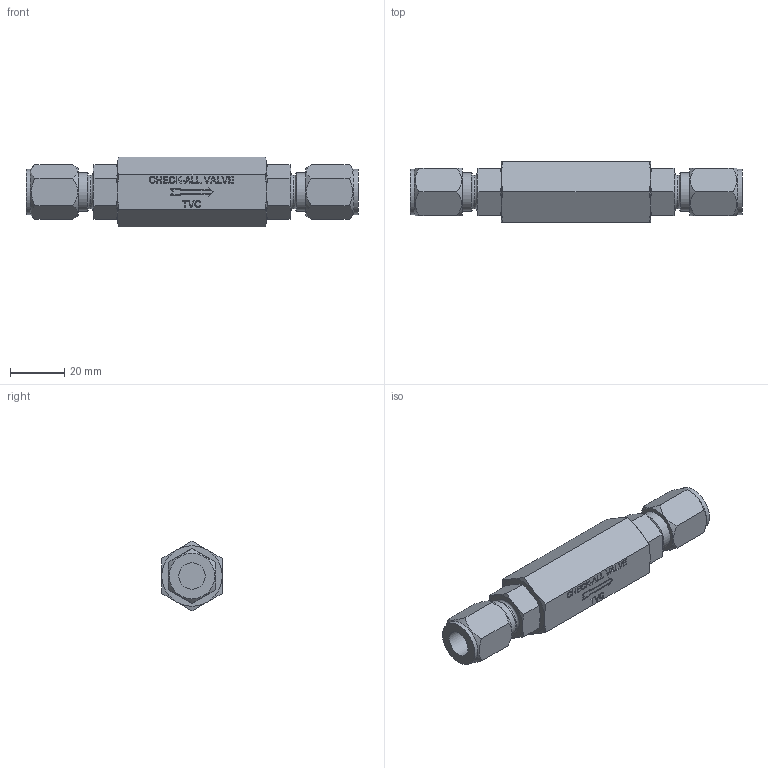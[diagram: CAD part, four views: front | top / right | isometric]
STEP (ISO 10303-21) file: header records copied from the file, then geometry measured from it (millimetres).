
FILE_DESCRIPTION( ( 'Unknown' ), '1' );
FILE_NAME( 'Y:/ENGR/3D Solid Edge Models/TV/stp/TVC.stp', 'Unknown', ( 'Unknown' ), ( 'Unknown' ), 'PSStep 16.0.42', 'Unknown', ' ' );
FILE_SCHEMA( ( 'AUTOMOTIVE_DESIGN { 1 0 10303 214 1 1 1 1 }' ) );
Length unit declared in the file: millimetre
Products named in the file (1): 1
Bounding box: 121.92 x 22.23 x 25.66 mm (x, y, z)
Volume: 36701.6 mm3; surface area: 10610.1 mm2
Topology: 1 solids, 1 shells, 270 faces, 677 edges, 438 vertices
Faces by surface type: plane 202, cone 42, extrusion 16, cylinder 8, torus 2
Full cylindrical faces by diameter (mm): 9.69 x2, 12.243 x2, 14.287 x2, 16.739 x2
Entity records: 11968 total; most frequent: CARTESIAN_POINT 2647, ORIENTED_EDGE 1306, DIRECTION 1080, EDGE_CURVE 653, PRESENTATION_STYLE_ASSIGNMENT 536, COLOUR_RGB 536, VECTOR 458, LINE 442
